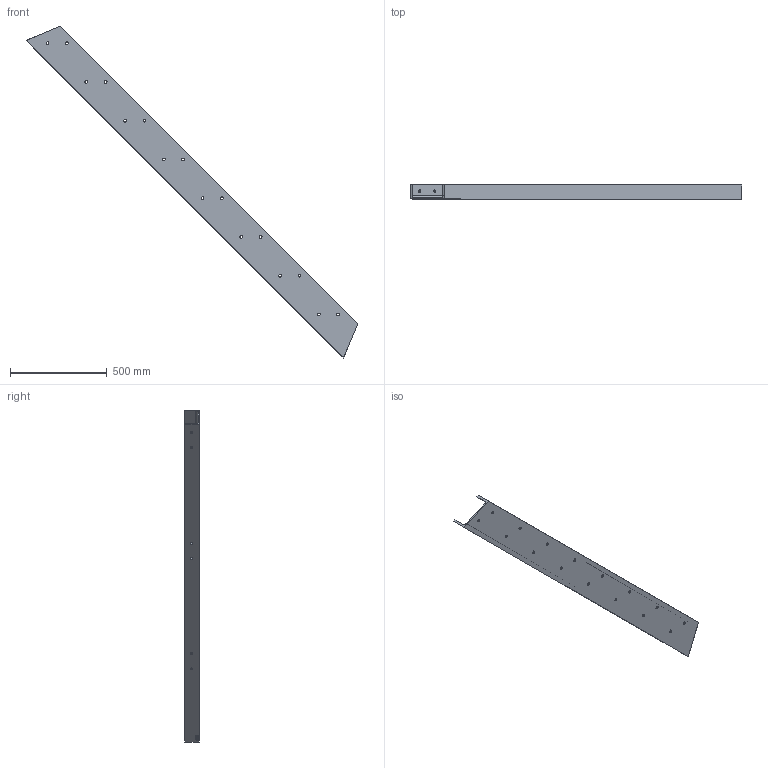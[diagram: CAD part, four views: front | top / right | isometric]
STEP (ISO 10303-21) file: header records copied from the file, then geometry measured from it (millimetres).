
FILE_DESCRIPTION (( 'STEP AP214' ), '1' );
FILE_NAME ('CCJ029-REP.039 - MONTANT ESCALIER INTERMEDIAIRE SYM.STEP', '2024-04-04T10:03:30', ( '' ), ( '' ), 'SwSTEP 2.0', 'SolidWorks 2021', '' );
FILE_SCHEMA (( 'AUTOMOTIVE_DESIGN' ));
Length unit declared in the file: millimetre
Products named in the file (1): CCJ029-REP.039 - MONTANT ESCALIER INTERMEDIAIRE SYM
Bounding box: 1714.56 x 75 x 1714.56 mm (x, y, z)
Volume: 5613938.5 mm3; surface area: 1439131.3 mm2
Topology: 1 solids, 1 shells, 99 faces, 276 edges, 184 vertices
Faces by surface type: cylinder 46, bspline 32, plane 21
Entity records: 5216 total; most frequent: CARTESIAN_POINT 2692, ORIENTED_EDGE 552, DIRECTION 432, EDGE_CURVE 276, VERTEX_POINT 184, AXIS2_PLACEMENT_3D 156, EDGE_LOOP 148, LINE 120
